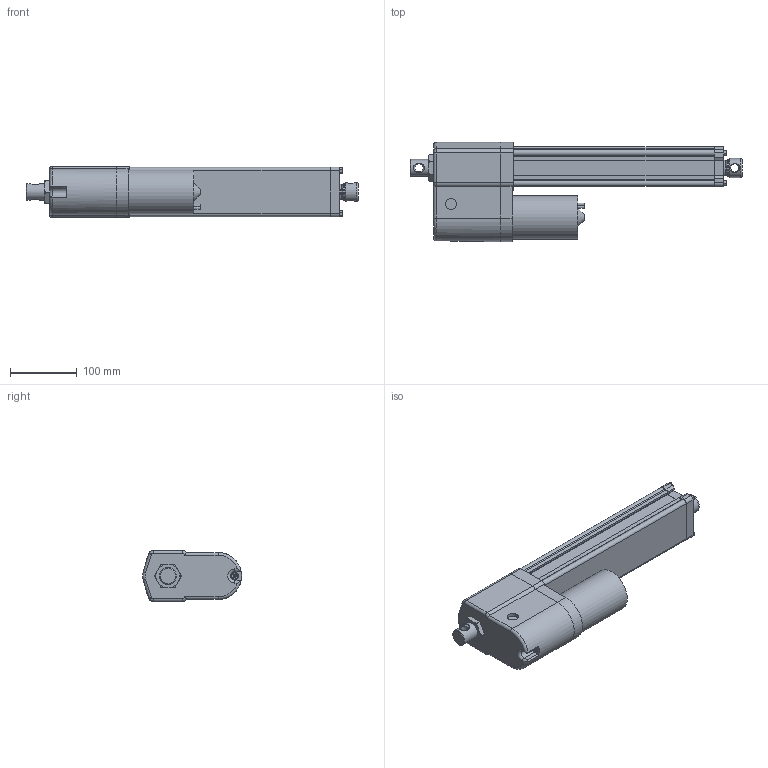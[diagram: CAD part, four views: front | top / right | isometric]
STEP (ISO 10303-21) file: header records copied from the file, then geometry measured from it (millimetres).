
FILE_DESCRIPTION( ( 'STEP AP203' ), '1' );
FILE_NAME( 'p:/temp/worker_452/temp/exporttempdir_4188_633_RZvjO/format_0/DA12-05A65M25M0NPO-AMM.stp', '2020-04-12T18:18:30', ( 'License CC BY-ND 4.0' ), ( 'CADENAS' ), ' ', 'PARTsolutions', ' ' );
FILE_SCHEMA( ( 'CONFIG_CONTROL_DESIGN' ) );
Length unit declared in the file: millimetre
Products named in the file (8): DA12-05A65M25M0NPO-AMM; _ELECTRAK-LA14-DA12-05A65MM0NPO-25M-EU-REAR; _Electrak-10-EU-RA-D602700; _D602768eu; _ELECTRAK-LA14-DA12--MOTOR; _DA12-05A65M25M0NPOAMMtube; _ELECTRAK-LA14-DA12--25-PLATE; _ELECTRAK-LA14-DA12--2505A65MNPOM-ROD
Assembly tree (7 placements, depth 2):
  DA12-05A65M25M0NPO-AMM
    _ELECTRAK-LA14-DA12-05A65MM0NPO-25M-EU-REAR
    _Electrak-10-EU-RA-D602700
    _D602768eu
    _ELECTRAK-LA14-DA12--MOTOR
    _DA12-05A65M25M0NPOAMMtube
    _ELECTRAK-LA14-DA12--25-PLATE
    _ELECTRAK-LA14-DA12--2505A65MNPOM-ROD
Bounding box: 496.05 x 148 x 76.2 mm (x, y, z)
Volume: 2061032.8 mm3; surface area: 365526.7 mm2
Topology: 7 solids, 8 shells, 378 faces, 942 edges, 611 vertices
Faces by surface type: plane 184, cylinder 131, cone 45, torus 14, bspline 4
Full cylindrical faces by diameter (mm): 4 x2, 4.126 x1, 4.8 x5, 5 x5, 5.6 x4, 7.878 x4, 9.398 x1, 12.2 x2, 16 x1, 16.5 x1, 21.8 x1, 25.2 x1, 25.4 x1, 26.24 x1, 28.5 x1, 28.6 x2, 47.625 x1, 65.3 x1
Entity records: 11834 total; most frequent: CARTESIAN_POINT 2729, DIRECTION 1869, ORIENTED_EDGE 1744, EDGE_CURVE 872, AXIS2_PLACEMENT_3D 702, VERTEX_POINT 602, EDGE_LOOP 485, LINE 465
